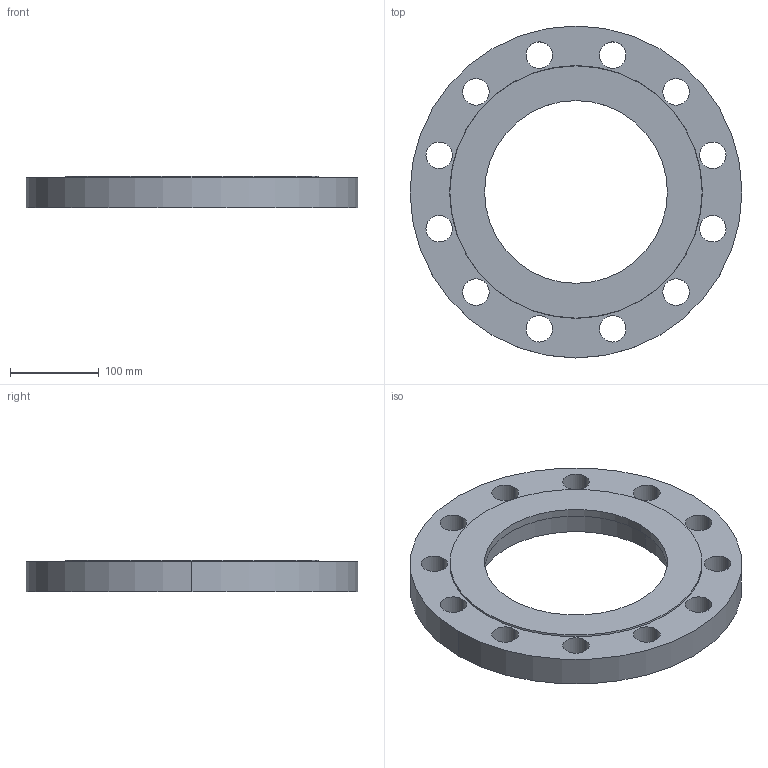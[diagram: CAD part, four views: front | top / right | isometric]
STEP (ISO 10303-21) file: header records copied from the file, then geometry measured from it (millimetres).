
FILE_DESCRIPTION (( 'STEP AP214' ), '1' );
FILE_NAME ('PN40 DN200 Type 05 - Socket (Type B) - Not in Standard.STEP', '2019-01-05T02:26:01', ( '' ), ( '' ), 'SwSTEP 2.0', 'SolidWorks 2019', '' );
FILE_SCHEMA (( 'AUTOMOTIVE_DESIGN' ));
Length unit declared in the file: millimetre
Products named in the file (1): PN40 DN200 Type 05 - Socket (Type B) - Not in Standard
Bounding box: 375 x 375 x 36 mm (x, y, z)
Volume: 2252868.6 mm3; surface area: 241586.1 mm2
Topology: 1 solids, 1 shells, 36 faces, 96 edges, 64 vertices
Faces by surface type: cylinder 30, plane 4, cone 2
Entity records: 1250 total; most frequent: DIRECTION 234, CARTESIAN_POINT 197, ORIENTED_EDGE 192, AXIS2_PLACEMENT_3D 101, EDGE_CURVE 96, CIRCLE 64, VERTEX_POINT 64, EDGE_LOOP 64
